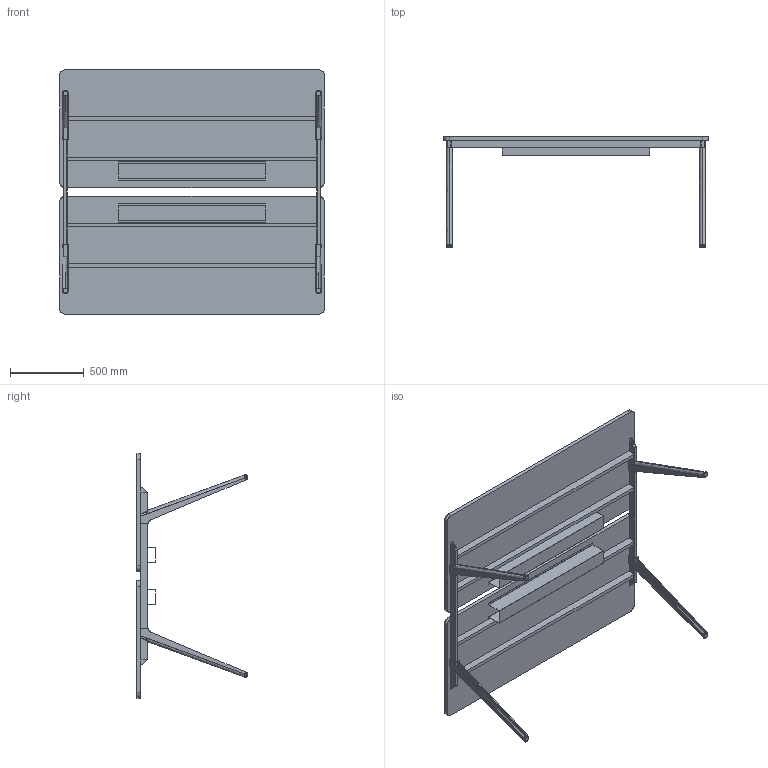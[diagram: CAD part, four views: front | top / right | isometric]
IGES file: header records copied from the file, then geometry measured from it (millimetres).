
Start section: SolidWorks IGES file using analytic representation for surfaces
Global section: file name: C:\Users\simone.cerana\OneDrive - Gruppo Tecno\Desktop\CHINA\DISEGNI DI SERIE\ASSIEMI LISTINO\HORIZON LISTINO\FULL OPTIONAL\HO1816FO.IGS; native system: SolidWorks 2024; preprocessor: SolidWorks 2024; author: simone.cerana; date: 260512.154719; units: millimetre
Bounding box: 1800 x 750.58 x 1660 mm (x, y, z)
Surface area: 8940903 mm2 (no closed solid volume)
Topology: 0 solids, 0 shells, 364 faces, 4416 edges, 4416 vertices
Faces by surface type: bspline 256, revolution 108
